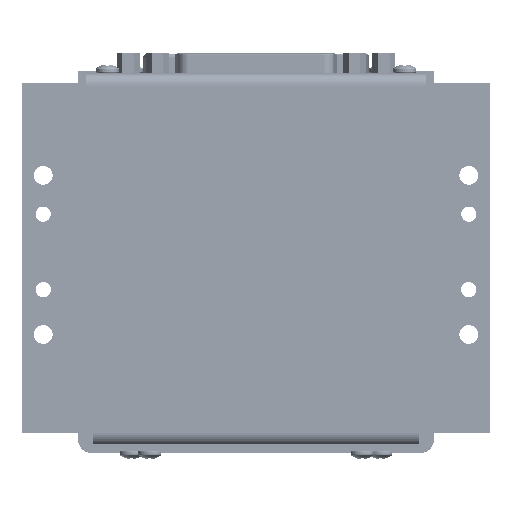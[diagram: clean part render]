
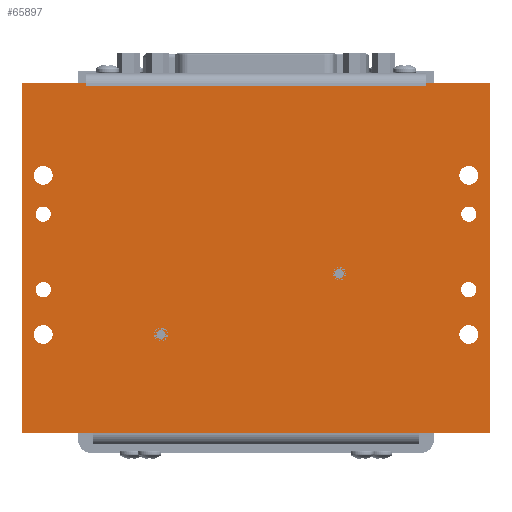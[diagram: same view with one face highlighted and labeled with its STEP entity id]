
A CAD part, front view. The second image highlights one B-rep face of the part: STEP entity #65897.
In plain terms, the highlighted planar face has unit normal (0, -1, 0) as drawn and (0, 0, -1) by its records, which use the part's own axes.
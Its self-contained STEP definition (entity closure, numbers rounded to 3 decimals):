
#4990=PLANE('',#71652);
#9396=VECTOR('',#85957,1.);
#9402=VECTOR('',#85973,1.);
#9407=VECTOR('',#85979,1.);
#9415=VECTOR('',#85989,1.);
#9416=VECTOR('',#85990,1.);
#9417=VECTOR('',#85991,1.);
#9418=VECTOR('',#85992,1.);
#9419=VECTOR('',#85993,1.);
#9420=VECTOR('',#85994,1.);
#9421=VECTOR('',#85995,1.);
#13912=LINE('',#122263,#9396);
#13918=LINE('',#122282,#9402);
#13923=LINE('',#122292,#9407);
#13931=LINE('',#122310,#9415);
#13932=LINE('',#122312,#9416);
#13933=LINE('',#122314,#9417);
#13934=LINE('',#122316,#9418);
#13935=LINE('',#122320,#9419);
#13936=LINE('',#122322,#9420);
#13937=LINE('',#122324,#9421);
#20108=VERTEX_POINT('',#121861);
#20110=VERTEX_POINT('',#121866);
#20227=VERTEX_POINT('',#122199);
#20229=VERTEX_POINT('',#122204);
#20231=VERTEX_POINT('',#122209);
#20233=VERTEX_POINT('',#122214);
#20235=VERTEX_POINT('',#122219);
#20237=VERTEX_POINT('',#122224);
#20239=VERTEX_POINT('',#122229);
#20241=VERTEX_POINT('',#122234);
#20251=VERTEX_POINT('',#122260);
#20252=VERTEX_POINT('',#122262);
#20255=VERTEX_POINT('',#122275);
#20257=VERTEX_POINT('',#122280);
#20259=VERTEX_POINT('',#122283);
#20262=VERTEX_POINT('',#122291);
#20271=VERTEX_POINT('',#122311);
#20272=VERTEX_POINT('',#122313);
#20273=VERTEX_POINT('',#122315);
#20274=VERTEX_POINT('',#122317);
#20275=VERTEX_POINT('',#122318);
#20276=VERTEX_POINT('',#122319);
#20277=VERTEX_POINT('',#122321);
#20278=VERTEX_POINT('',#122323);
#23400=CIRCLE('',#71475,0.108);
#23402=CIRCLE('',#71478,0.108);
#23479=CIRCLE('',#71614,0.225);
#23481=CIRCLE('',#71617,0.225);
#23483=CIRCLE('',#71620,0.225);
#23485=CIRCLE('',#71623,0.225);
#23487=CIRCLE('',#71626,0.183);
#23489=CIRCLE('',#71629,0.183);
#23491=CIRCLE('',#71632,0.183);
#23493=CIRCLE('',#71635,0.183);
#32821=EDGE_CURVE('',#20108,#20108,#23400,.T.);
#32823=EDGE_CURVE('',#20110,#20110,#23402,.T.);
#32980=EDGE_CURVE('',#20227,#20227,#23479,.T.);
#32982=EDGE_CURVE('',#20229,#20229,#23481,.T.);
#32984=EDGE_CURVE('',#20231,#20231,#23483,.T.);
#32986=EDGE_CURVE('',#20233,#20233,#23485,.T.);
#32988=EDGE_CURVE('',#20235,#20235,#23487,.T.);
#32990=EDGE_CURVE('',#20237,#20237,#23489,.T.);
#32992=EDGE_CURVE('',#20239,#20239,#23491,.T.);
#32994=EDGE_CURVE('',#20241,#20241,#23493,.T.);
#33008=EDGE_CURVE('',#20251,#20252,#13912,.T.);
#33014=EDGE_CURVE('',#20255,#20251,#13912,.T.);
#33018=EDGE_CURVE('',#20259,#20257,#13918,.T.);
#33023=EDGE_CURVE('',#20262,#20257,#13923,.T.);
#33034=EDGE_CURVE('',#20271,#20262,#13931,.T.);
#33035=EDGE_CURVE('',#20272,#20271,#13932,.T.);
#33036=EDGE_CURVE('',#20272,#20273,#13933,.T.);
#33037=EDGE_CURVE('',#20273,#20274,#13934,.T.);
#33038=EDGE_CURVE('',#20274,#20275,#13934,.T.);
#33039=EDGE_CURVE('',#20275,#20276,#13934,.T.);
#33040=EDGE_CURVE('',#20276,#20277,#13935,.T.);
#33041=EDGE_CURVE('',#20278,#20277,#13936,.T.);
#33042=EDGE_CURVE('',#20255,#20278,#13937,.T.);
#33043=EDGE_CURVE('',#20252,#20259,#13912,.T.);
#52062=ORIENTED_EDGE('',*,*,#32821,.T.);
#52063=ORIENTED_EDGE('',*,*,#32823,.T.);
#52064=ORIENTED_EDGE('',*,*,#32980,.T.);
#52065=ORIENTED_EDGE('',*,*,#32982,.T.);
#52066=ORIENTED_EDGE('',*,*,#32984,.T.);
#52067=ORIENTED_EDGE('',*,*,#32986,.T.);
#52068=ORIENTED_EDGE('',*,*,#32988,.T.);
#52069=ORIENTED_EDGE('',*,*,#32990,.T.);
#52070=ORIENTED_EDGE('',*,*,#32992,.T.);
#52071=ORIENTED_EDGE('',*,*,#32994,.T.);
#52072=ORIENTED_EDGE('',*,*,#33018,.T.);
#52073=ORIENTED_EDGE('',*,*,#33023,.F.);
#52074=ORIENTED_EDGE('',*,*,#33034,.F.);
#52075=ORIENTED_EDGE('',*,*,#33035,.F.);
#52076=ORIENTED_EDGE('',*,*,#33036,.T.);
#52077=ORIENTED_EDGE('',*,*,#33037,.T.);
#52078=ORIENTED_EDGE('',*,*,#33038,.T.);
#52079=ORIENTED_EDGE('',*,*,#33039,.T.);
#52080=ORIENTED_EDGE('',*,*,#33040,.T.);
#52081=ORIENTED_EDGE('',*,*,#33041,.F.);
#52082=ORIENTED_EDGE('',*,*,#33042,.F.);
#52083=ORIENTED_EDGE('',*,*,#33014,.T.);
#52084=ORIENTED_EDGE('',*,*,#33008,.T.);
#52085=ORIENTED_EDGE('',*,*,#33043,.T.);
#57195=EDGE_LOOP('',(#52062));
#57196=EDGE_LOOP('',(#52063));
#57197=EDGE_LOOP('',(#52064));
#57198=EDGE_LOOP('',(#52065));
#57199=EDGE_LOOP('',(#52066));
#57200=EDGE_LOOP('',(#52067));
#57201=EDGE_LOOP('',(#52068));
#57202=EDGE_LOOP('',(#52069));
#57203=EDGE_LOOP('',(#52070));
#57204=EDGE_LOOP('',(#52071));
#57205=EDGE_LOOP('',(#52072,#52073,#52074,#52075,#52076,#52077,#52078,#52079,
#52080,#52081,#52082,#52083,#52084,#52085));
#61857=FACE_BOUND('',#57195,.T.);
#61858=FACE_BOUND('',#57196,.T.);
#61859=FACE_BOUND('',#57197,.T.);
#61860=FACE_BOUND('',#57198,.T.);
#61861=FACE_BOUND('',#57199,.T.);
#61862=FACE_BOUND('',#57200,.T.);
#61863=FACE_BOUND('',#57201,.T.);
#61864=FACE_BOUND('',#57202,.T.);
#61865=FACE_BOUND('',#57203,.T.);
#61866=FACE_BOUND('',#57204,.T.);
#61867=FACE_BOUND('',#57205,.T.);
#65897=ADVANCED_FACE('',(#61857,#61858,#61859,#61860,#61861,#61862,#61863,
#61864,#61865,#61866,#61867),#4990,.F.);
#71475=AXIS2_PLACEMENT_3D('',#121860,#85554,#85555);
#71478=AXIS2_PLACEMENT_3D('',#121865,#85560,#85561);
#71614=AXIS2_PLACEMENT_3D('',#122198,#85892,#85893);
#71617=AXIS2_PLACEMENT_3D('',#122203,#85898,#85899);
#71620=AXIS2_PLACEMENT_3D('',#122208,#85904,#85905);
#71623=AXIS2_PLACEMENT_3D('',#122213,#85910,#85911);
#71626=AXIS2_PLACEMENT_3D('',#122218,#85916,#85917);
#71629=AXIS2_PLACEMENT_3D('',#122223,#85922,#85923);
#71632=AXIS2_PLACEMENT_3D('',#122228,#85928,#85929);
#71635=AXIS2_PLACEMENT_3D('',#122233,#85934,#85935);
#71652=AXIS2_PLACEMENT_3D('',#122309,#85988,$);
#85554=DIRECTION('',(0.,0.,1.));
#85555=DIRECTION('',(0.108,0.,0.));
#85560=DIRECTION('',(0.,0.,1.));
#85561=DIRECTION('',(0.108,0.,0.));
#85892=DIRECTION('',(0.,0.,1.));
#85893=DIRECTION('',(0.,0.225,0.));
#85898=DIRECTION('',(0.,0.,1.));
#85899=DIRECTION('',(0.,0.225,0.));
#85904=DIRECTION('',(0.,0.,1.));
#85905=DIRECTION('',(0.,0.225,0.));
#85910=DIRECTION('',(0.,0.,1.));
#85911=DIRECTION('',(0.,0.225,0.));
#85916=DIRECTION('',(0.,0.,1.));
#85917=DIRECTION('',(0.,0.183,0.));
#85922=DIRECTION('',(0.,0.,1.));
#85923=DIRECTION('',(0.,0.183,0.));
#85928=DIRECTION('',(0.,0.,1.));
#85929=DIRECTION('',(0.,0.183,0.));
#85934=DIRECTION('',(0.,0.,1.));
#85935=DIRECTION('',(0.,0.183,0.));
#85957=DIRECTION('',(1.,0.,0.));
#85973=DIRECTION('',(0.,1.,0.));
#85979=DIRECTION('',(-1.,0.,0.));
#85988=DIRECTION('',(0.,0.,1.));
#85989=DIRECTION('',(0.,1.,0.));
#85990=DIRECTION('',(1.,0.,0.));
#85991=DIRECTION('',(0.,1.,0.));
#85992=DIRECTION('',(-1.,0.,0.));
#85993=DIRECTION('',(0.,-1.,0.));
#85994=DIRECTION('',(1.,0.,0.));
#85995=DIRECTION('',(0.,-1.,0.));
#121860=CARTESIAN_POINT('',(-2.273,1.836,0.));
#121861=CARTESIAN_POINT('',(-2.165,1.836,0.));
#121865=CARTESIAN_POINT('',(1.994,0.381,0.));
#121866=CARTESIAN_POINT('',(2.102,0.381,0.));
#122198=CARTESIAN_POINT('',(5.093,1.836,0.));
#122199=CARTESIAN_POINT('',(5.093,2.061,0.));
#122203=CARTESIAN_POINT('',(5.093,-1.974,0.));
#122204=CARTESIAN_POINT('',(5.093,-1.749,0.));
#122208=CARTESIAN_POINT('',(-5.093,-1.974,0.));
#122209=CARTESIAN_POINT('',(-5.093,-1.749,0.));
#122213=CARTESIAN_POINT('',(-5.093,1.836,0.));
#122214=CARTESIAN_POINT('',(-5.093,2.061,0.));
#122218=CARTESIAN_POINT('',(5.093,-1.044,0.));
#122219=CARTESIAN_POINT('',(5.093,-0.861,0.));
#122223=CARTESIAN_POINT('',(5.093,0.765,0.));
#122224=CARTESIAN_POINT('',(5.093,0.947,0.));
#122228=CARTESIAN_POINT('',(-5.093,-1.044,0.));
#122229=CARTESIAN_POINT('',(-5.093,-0.861,0.));
#122233=CARTESIAN_POINT('',(-5.093,0.765,0.));
#122234=CARTESIAN_POINT('',(-5.093,0.947,0.));
#122260=CARTESIAN_POINT('',(-3.912,4.186,0.));
#122262=CARTESIAN_POINT('',(3.912,4.186,0.));
#122263=CARTESIAN_POINT('',(1.956,4.186,0.));
#122275=CARTESIAN_POINT('',(-5.601,4.186,0.));
#122280=CARTESIAN_POINT('',(3.912,4.191,0.));
#122282=CARTESIAN_POINT('',(3.912,2.182,0.));
#122283=CARTESIAN_POINT('',(3.912,4.186,0.));
#122291=CARTESIAN_POINT('',(5.601,4.191,0.));
#122292=CARTESIAN_POINT('',(5.601,4.191,0.));
#122309=CARTESIAN_POINT('',(0.,0.025,0.));
#122310=CARTESIAN_POINT('',(5.601,-4.191,0.));
#122311=CARTESIAN_POINT('',(5.601,-4.191,0.));
#122312=CARTESIAN_POINT('',(4.064,-4.191,0.));
#122313=CARTESIAN_POINT('',(4.064,-4.191,0.));
#122314=CARTESIAN_POINT('',(4.064,-2.124,0.));
#122315=CARTESIAN_POINT('',(4.064,-4.12,0.));
#122316=CARTESIAN_POINT('',(2.032,-4.12,0.));
#122317=CARTESIAN_POINT('',(4.064,-4.12,0.));
#122318=CARTESIAN_POINT('',(-4.064,-4.12,0.));
#122319=CARTESIAN_POINT('',(-4.064,-4.12,0.));
#122320=CARTESIAN_POINT('',(-4.064,-2.124,0.));
#122321=CARTESIAN_POINT('',(-4.064,-4.191,0.));
#122322=CARTESIAN_POINT('',(-5.601,-4.191,0.));
#122323=CARTESIAN_POINT('',(-5.601,-4.191,0.));
#122324=CARTESIAN_POINT('',(-5.601,4.186,0.));
